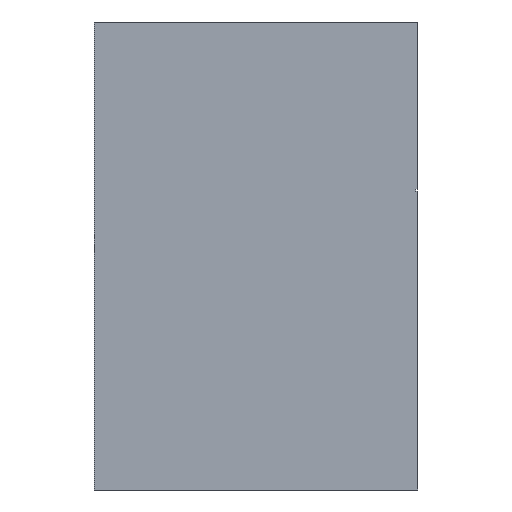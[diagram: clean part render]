
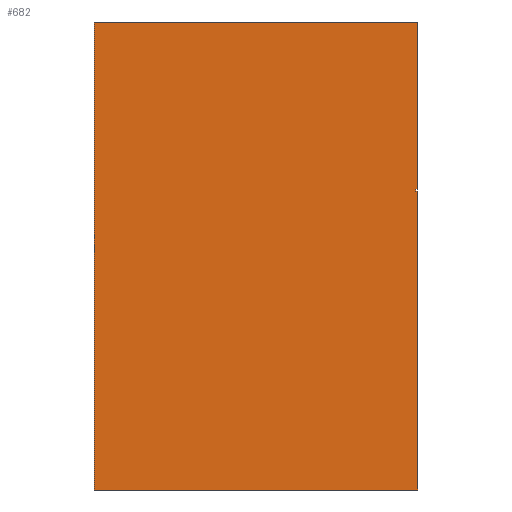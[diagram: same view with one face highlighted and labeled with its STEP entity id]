
A CAD part, left-side view. The second image highlights one B-rep face of the part: STEP entity #682.
In plain terms, the highlighted planar face has unit normal (-1, 0, 0).
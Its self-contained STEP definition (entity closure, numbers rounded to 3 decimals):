
#52=FACE_OUTER_BOUND('',#81,.T.);
#81=EDGE_LOOP('',(#612,#613,#614,#615,#616,#617,#618,#619));
#223=VERTEX_POINT('',#1784);
#225=VERTEX_POINT('',#1788);
#227=VERTEX_POINT('',#1793);
#228=VERTEX_POINT('',#1798);
#230=VERTEX_POINT('',#1804);
#233=VERTEX_POINT('',#1811);
#235=VERTEX_POINT('',#1818);
#237=VERTEX_POINT('',#1824);
#388=EDGE_CURVE('',#223,#225,#921,.T.);
#391=EDGE_CURVE('',#227,#223,#924,.T.);
#392=EDGE_CURVE('',#228,#227,#925,.T.);
#396=EDGE_CURVE('',#225,#230,#929,.T.);
#400=EDGE_CURVE('',#233,#228,#933,.T.);
#402=EDGE_CURVE('',#235,#233,#935,.T.);
#406=EDGE_CURVE('',#230,#237,#939,.T.);
#408=EDGE_CURVE('',#237,#235,#941,.T.);
#612=ORIENTED_EDGE('',*,*,#402,.T.);
#613=ORIENTED_EDGE('',*,*,#400,.T.);
#614=ORIENTED_EDGE('',*,*,#392,.T.);
#615=ORIENTED_EDGE('',*,*,#391,.T.);
#616=ORIENTED_EDGE('',*,*,#388,.T.);
#617=ORIENTED_EDGE('',*,*,#396,.T.);
#618=ORIENTED_EDGE('',*,*,#406,.T.);
#619=ORIENTED_EDGE('',*,*,#408,.T.);
#654=PLANE('',#1160);
#682=ADVANCED_FACE('',(#52),#654,.T.);
#921=LINE('',#1790,#1112);
#924=LINE('',#1796,#1115);
#925=LINE('',#1799,#1116);
#929=LINE('',#1807,#1120);
#933=LINE('',#1814,#1124);
#935=LINE('',#1819,#1126);
#939=LINE('',#1826,#1130);
#941=LINE('',#1829,#1132);
#1112=VECTOR('',#1374,10.);
#1115=VECTOR('',#1379,10.);
#1116=VECTOR('',#1382,10.);
#1120=VECTOR('',#1388,840.);
#1124=VECTOR('',#1394,1500.);
#1126=VECTOR('',#1398,1625.);
#1130=VECTOR('',#1404,1625.);
#1132=VECTOR('',#1408,2350.);
#1160=AXIS2_PLACEMENT_3D('',#1830,#1409,#1410);
#1374=DIRECTION('',(0.,-1.,0.));
#1379=DIRECTION('',(0.,0.,1.));
#1382=DIRECTION('',(0.,1.,0.));
#1388=DIRECTION('',(0.,0.,1.));
#1394=DIRECTION('',(0.,0.,1.));
#1398=DIRECTION('',(0.,-1.,0.));
#1404=DIRECTION('',(0.,1.,0.));
#1408=DIRECTION('',(0.,0.,-1.));
#1409=DIRECTION('center_axis',(-1.,0.,0.));
#1410=DIRECTION('ref_axis',(0.,0.,-1.));
#1784=CARTESIAN_POINT('',(0.,-1615.,1510.));
#1788=CARTESIAN_POINT('',(0.,-1625.,1510.));
#1790=CARTESIAN_POINT('',(0.,-1615.,1510.));
#1793=CARTESIAN_POINT('',(0.,-1615.,1500.));
#1796=CARTESIAN_POINT('',(0.,-1615.,1500.));
#1798=CARTESIAN_POINT('',(0.,-1625.,1500.));
#1799=CARTESIAN_POINT('',(0.,-1625.,1500.));
#1804=CARTESIAN_POINT('',(0.,-1625.,2350.));
#1807=CARTESIAN_POINT('',(0.,-1625.,1510.));
#1811=CARTESIAN_POINT('',(0.,-1625.,0.));
#1814=CARTESIAN_POINT('',(0.,-1625.,0.));
#1818=CARTESIAN_POINT('',(0.,0.,0.));
#1819=CARTESIAN_POINT('',(0.,0.,0.));
#1824=CARTESIAN_POINT('',(0.,0.,2350.));
#1826=CARTESIAN_POINT('',(0.,-1625.,2350.));
#1829=CARTESIAN_POINT('',(0.,0.,2350.));
#1830=CARTESIAN_POINT('Origin',(0.,0.,0.));
